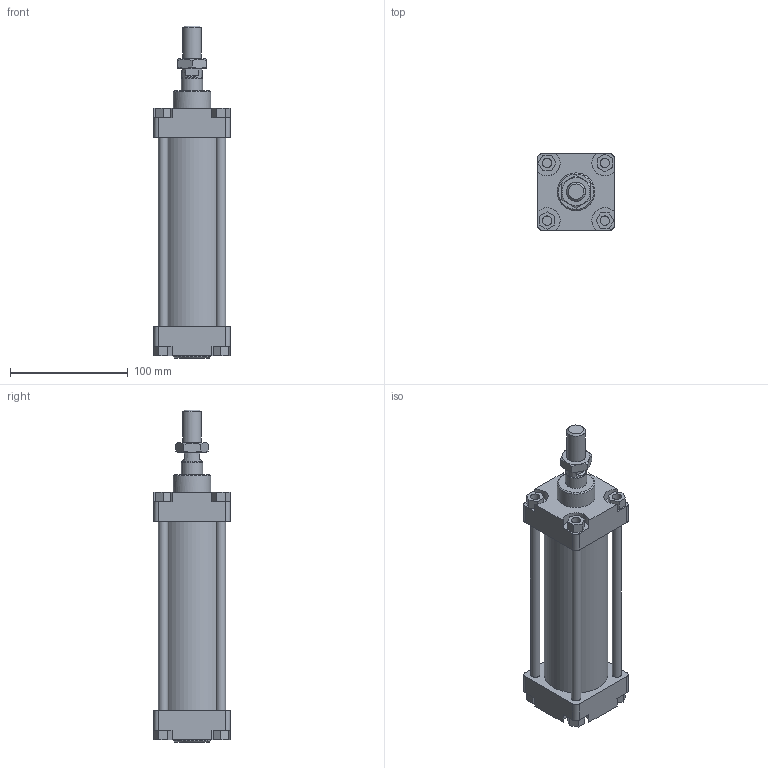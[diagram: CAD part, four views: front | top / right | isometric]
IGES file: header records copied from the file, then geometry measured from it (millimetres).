
Global section: file name: 1303_050_0100_01A; native system: Autodesk Inventor 2014; preprocessor: unknown; author: A. Manieri; date: 20161123.150212; units: millimetre
Bounding box: 65 x 65 x 282 mm (x, y, z)
Volume: 435224.1 mm3; surface area: 138094.3 mm2
Topology: 9 solids, 9 shells, 163 faces, 401 edges, 268 vertices
Faces by surface type: bspline 163
